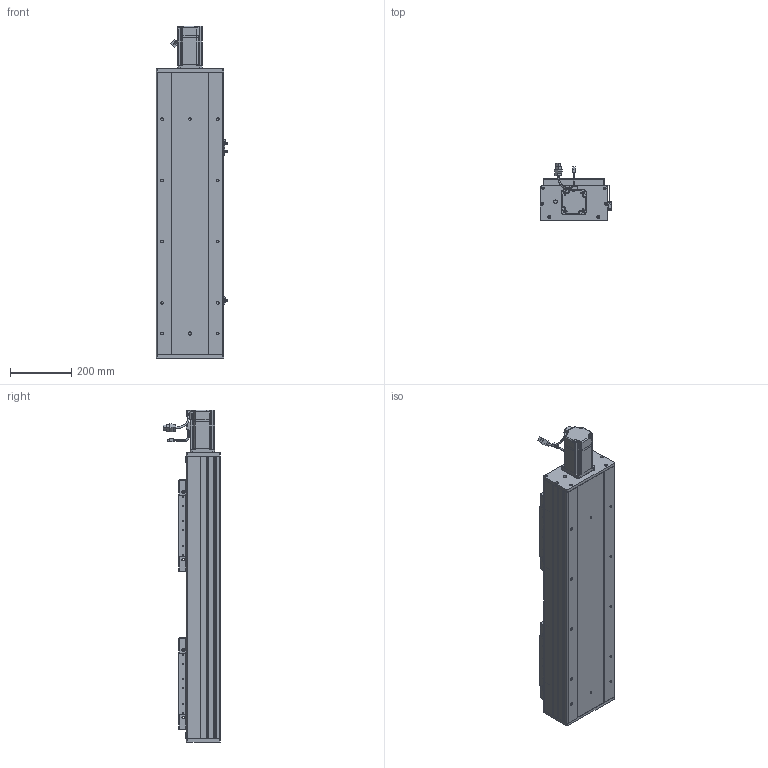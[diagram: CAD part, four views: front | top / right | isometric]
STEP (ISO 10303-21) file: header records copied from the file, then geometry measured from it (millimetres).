
FILE_DESCRIPTION (( 'STEP AP203' ), '1' );
FILE_NAME ('RY220F-L2525-300-MK.SLDASM_500.step', '2022-07-04T01:03:21', ( '' ), ( '' ), 'SwSTEP 2.0', 'SolidWorks 2016', '' );
FILE_SCHEMA (( 'CONFIG_CONTROL_DESIGN' ));
Length unit declared in the file: millimetre
Products named in the file (15): RY220F菁釱MK-300_500; RY220F-詩湍揤踡輸; 滅袉蝶18-24; RY220F-672覜茼んえ; RY220Fヶ裔啣; RY220电机支撑座FK20（PCD90M6）; 滅袉蝶18-20; RY220F-祥凄詩湍-MK-300_500; 怢湛750W_ECMA-CX0807ES; 覜茼ん672; RY220F-滅鳥奻裔; RY220F-奻裔啣-300_500; RY220F綴裔啣; RY220F-L2525-300-MK.SLDASM_500; RY220F臏賑釱25-32佪裝
Assembly tree (23 placements, depth 2):
  RY220F-L2525-300-MK.SLDASM_500
    RY220F菁釱MK-300_500
    RY220电机支撑座FK20（PCD90M6）
    RY220F-奻裔啣-300_500  x2
    怢湛750W_ECMA-CX0807ES
    RY220F臏賑釱25-32佪裝  x2
    RY220F-滅鳥奻裔  x2
    滅袉蝶18-20
    滅袉蝶18-24  x3
    RY220Fヶ裔啣
    RY220F綴裔啣
    RY220F-祥凄詩湍-MK-300_500
    RY220F-詩湍揤踡輸  x2
    覜茼ん672  x3
    RY220F-672覜茼んえ  x2
Bounding box: 233.7 x 187.27 x 1084.3 mm (x, y, z)
Volume: 11543600.5 mm3; surface area: 2763146.6 mm2
Topology: 24 solids, 24 shells, 2678 faces, 7350 edges, 4570 vertices
Faces by surface type: cylinder 1202, plane 1030, cone 383, bspline 37, sphere 16, torus 10
Entity records: 66662 total; most frequent: CARTESIAN_POINT 18110, ORIENTED_EDGE 9866, DIRECTION 9514, EDGE_CURVE 4933, AXIS2_PLACEMENT_3D 3367, VERTEX_POINT 3210, LINE 2780, VECTOR 2780
